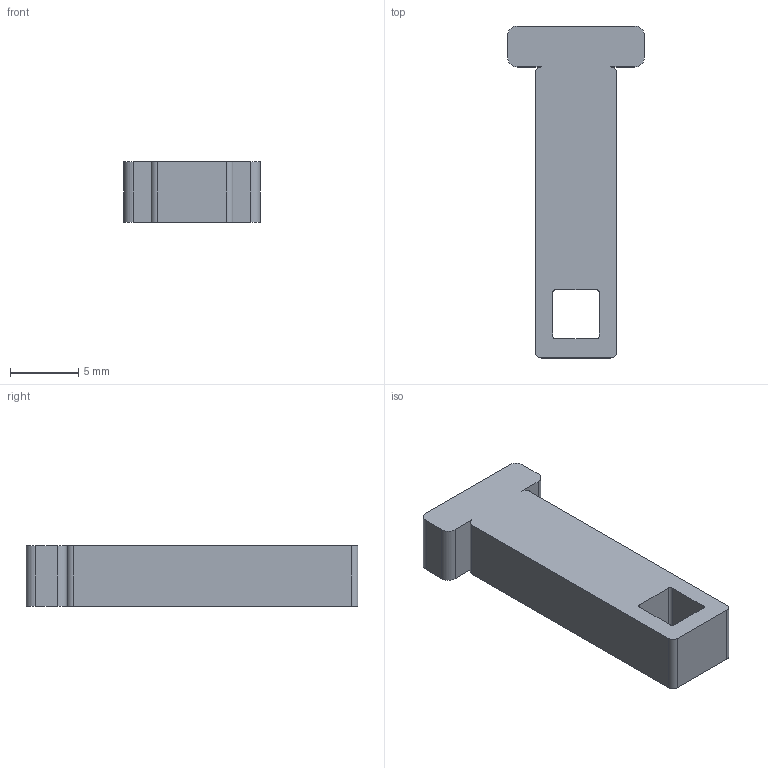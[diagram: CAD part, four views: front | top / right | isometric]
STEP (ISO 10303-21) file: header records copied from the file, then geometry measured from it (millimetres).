
FILE_DESCRIPTION(('Open CASCADE Model'),'2;1');
FILE_NAME('Open CASCADE Shape Model','2026-10-23T20:21:42',('Author'),( 'Open CASCADE'),'Open CASCADE STEP processor 7.8','Open CASCADE 7.8' ,'Unknown');
FILE_SCHEMA(('AUTOMOTIVE_DESIGN { 1 0 10303 214 1 1 1 1 }'));
Length unit declared in the file: millimetre
Products named in the file (1): Open CASCADE STEP translator 7.8 6
Bounding box: 10 x 24.3 x 4.4 mm (x, y, z)
Volume: 638 mm3; surface area: 651.2 mm2
Topology: 1 solids, 1 shells, 26 faces, 72 edges, 48 vertices
Faces by surface type: plane 14, cylinder 12
Entity records: 1798 total; most frequent: CARTESIAN_POINT 355, DIRECTION 270, LINE 152, VECTOR 152, ORIENTED_EDGE 144, PCURVE 144, DEFINITIONAL_REPRESENTATION 144, EDGE_CURVE 72
